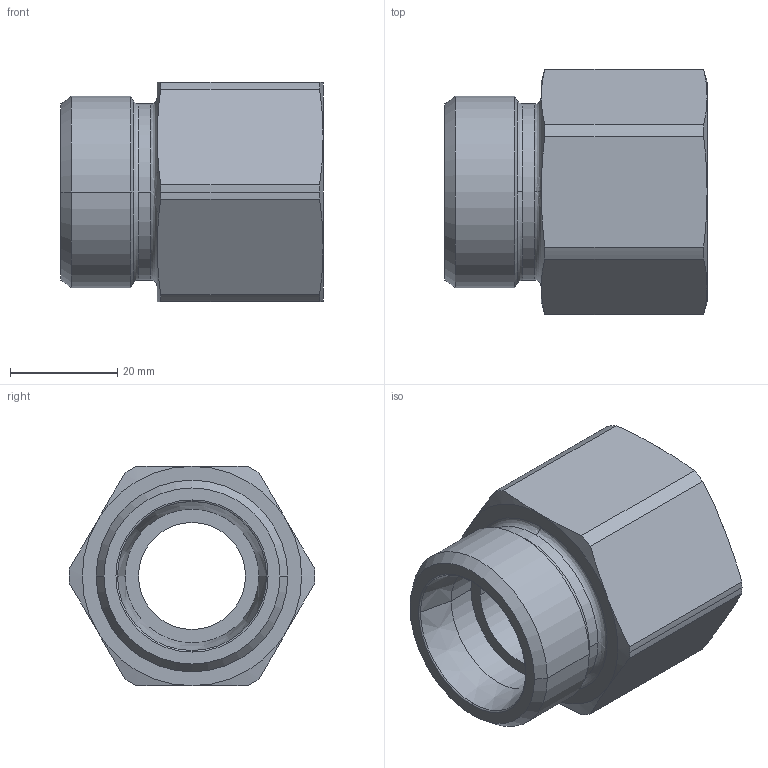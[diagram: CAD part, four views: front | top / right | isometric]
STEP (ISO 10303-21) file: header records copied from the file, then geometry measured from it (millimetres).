
FILE_DESCRIPTION((''),'2;1');
FILE_NAME('100821.stp','2007-10-30T15:18:40',(''),(''),'AutoCAD STEP 2000i','AutoCAD 2000i',', , ');
FILE_SCHEMA(('CONFIG_CONTROL_DESIGN'));
Length unit declared in the file: millimetre
Products named in the file (2): 100821.0; CHIAVE SMUSSATA#0
Assembly tree (1 placements, depth 2):
  100821.0
    CHIAVE SMUSSATA#0
Bounding box: 49 x 45.9 x 41 mm (x, y, z)
Volume: 32997.5 mm3; surface area: 12394.3 mm2
Topology: 1 solids, 1 shells, 56 faces, 134 edges, 82 vertices
Faces by surface type: cone 22, cylinder 18, plane 10, bspline 4, torus 2
Entity records: 1887 total; most frequent: CARTESIAN_POINT 498, DIRECTION 294, ORIENTED_EDGE 268, EDGE_CURVE 134, AXIS2_PLACEMENT_3D 130, VERTEX_POINT 82, CIRCLE 76, EDGE_LOOP 60
